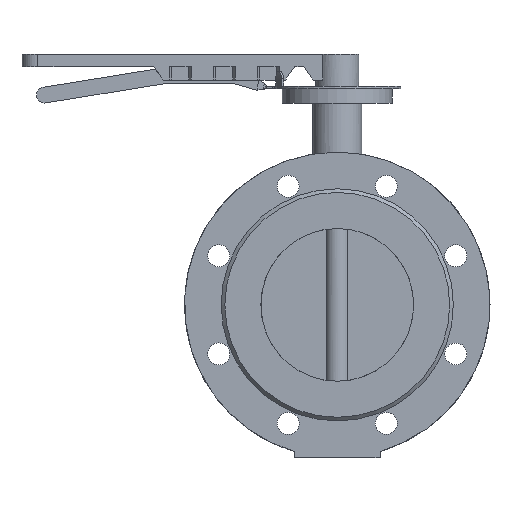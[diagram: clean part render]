
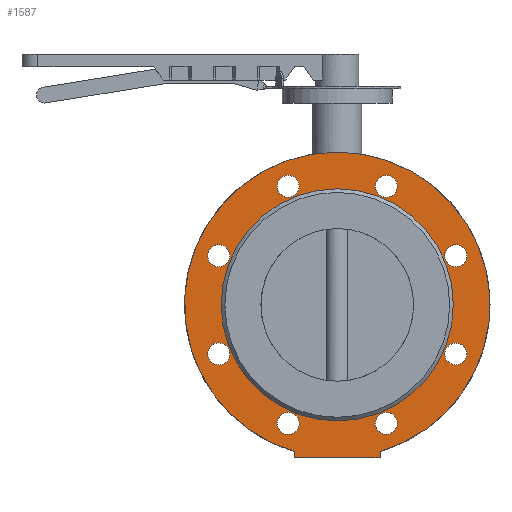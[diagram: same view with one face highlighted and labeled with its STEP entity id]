
A CAD part, front view. The second image highlights one B-rep face of the part: STEP entity #1587.
In plain terms, the highlighted planar face has unit normal (0, -1, 0).
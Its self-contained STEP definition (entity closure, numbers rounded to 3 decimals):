
#1587=ADVANCED_FACE('',(#3084,#3086,#3088,#3090,#3092,#3094,#3096,#3098,#3100,#3102),
#3104,.T.);
#3084=FACE_BOUND('',#3085,.T.);
#3085=EDGE_LOOP('',(#4193,#4194,#4195,#4196,#4197));
#3086=FACE_BOUND('',#3087,.T.);
#3087=EDGE_LOOP('',(#4198));
#3088=FACE_BOUND('',#3089,.T.);
#3089=EDGE_LOOP('',(#4199));
#3090=FACE_BOUND('',#3091,.T.);
#3091=EDGE_LOOP('',(#4200));
#3092=FACE_BOUND('',#3093,.T.);
#3093=EDGE_LOOP('',(#4201));
#3094=FACE_BOUND('',#3095,.T.);
#3095=EDGE_LOOP('',(#4202));
#3096=FACE_BOUND('',#3097,.T.);
#3097=EDGE_LOOP('',(#4203));
#3098=FACE_BOUND('',#3099,.T.);
#3099=EDGE_LOOP('',(#4204));
#3100=FACE_BOUND('',#3101,.T.);
#3101=EDGE_LOOP('',(#4205));
#3102=FACE_BOUND('',#3103,.T.);
#3103=EDGE_LOOP('',(#4206));
#3104=PLANE('',#3105);
#3105=AXIS2_PLACEMENT_3D('',#3106,#3107,#3108);
#3106=CARTESIAN_POINT('',(0.,-67.,0.));
#3107=DIRECTION('',(0.,-1.,0.));
#3108=DIRECTION('',(0.,0.,1.));
#4193=ORIENTED_EDGE('',*,*,#4712,.F.);
#4194=ORIENTED_EDGE('',*,*,#4765,.T.);
#4195=ORIENTED_EDGE('',*,*,#4766,.F.);
#4196=ORIENTED_EDGE('',*,*,#4758,.F.);
#4197=ORIENTED_EDGE('',*,*,#4713,.F.);
#4198=ORIENTED_EDGE('',*,*,#4730,.T.);
#4199=ORIENTED_EDGE('',*,*,#4731,.T.);
#4200=ORIENTED_EDGE('',*,*,#4732,.T.);
#4201=ORIENTED_EDGE('',*,*,#4733,.T.);
#4202=ORIENTED_EDGE('',*,*,#4734,.T.);
#4203=ORIENTED_EDGE('',*,*,#4735,.T.);
#4204=ORIENTED_EDGE('',*,*,#4736,.T.);
#4205=ORIENTED_EDGE('',*,*,#4767,.T.);
#4206=ORIENTED_EDGE('',*,*,#4737,.T.);
#4712=EDGE_CURVE('',#5507,#5509,#5510,.T.);
#4713=EDGE_CURVE('',#5509,#5511,#5512,.T.);
#4730=EDGE_CURVE('',#5535,#5535,#5536,.F.);
#4731=EDGE_CURVE('',#5537,#5537,#5538,.F.);
#4732=EDGE_CURVE('',#5539,#5539,#5540,.F.);
#4733=EDGE_CURVE('',#5541,#5541,#5542,.F.);
#4734=EDGE_CURVE('',#5543,#5543,#5544,.F.);
#4735=EDGE_CURVE('',#5545,#5545,#5546,.F.);
#4736=EDGE_CURVE('',#5547,#5547,#5548,.F.);
#4737=EDGE_CURVE('',#5549,#5549,#5550,.F.);
#4758=EDGE_CURVE('',#5511,#5588,#5589,.T.);
#4765=EDGE_CURVE('',#5507,#5597,#5599,.T.);
#4766=EDGE_CURVE('',#5588,#5597,#5600,.T.);
#4767=EDGE_CURVE('',#5601,#5601,#5602,.T.);
#5507=VERTEX_POINT('',#7806);
#5509=VERTEX_POINT('',#7810);
#5510=CIRCLE('',#7811,125.);
#5511=VERTEX_POINT('',#7815);
#5512=CIRCLE('',#7816,125.);
#5535=VERTEX_POINT('',#8066);
#5536=CIRCLE('',#8067,9.);
#5537=VERTEX_POINT('',#8071);
#5538=CIRCLE('',#8072,9.);
#5539=VERTEX_POINT('',#8076);
#5540=CIRCLE('',#8077,9.);
#5541=VERTEX_POINT('',#8081);
#5542=CIRCLE('',#8082,9.);
#5543=VERTEX_POINT('',#8086);
#5544=CIRCLE('',#8087,9.);
#5545=VERTEX_POINT('',#8091);
#5546=CIRCLE('',#8092,9.);
#5547=VERTEX_POINT('',#8096);
#5548=CIRCLE('',#8097,9.);
#5549=VERTEX_POINT('',#8101);
#5550=CIRCLE('',#8102,9.);
#5588=VERTEX_POINT('',#8197);
#5589=LINE('',#8198,#8199);
#5597=VERTEX_POINT('',#8218);
#5599=LINE('',#8222,#8223);
#5600=LINE('',#8225,#8226);
#5601=VERTEX_POINT('',#8228);
#5602=CIRCLE('',#8229,95.);
#7806=CARTESIAN_POINT('',(-35.,-67.,-120.));
#7810=CARTESIAN_POINT('',(0.,-67.,125.));
#7811=AXIS2_PLACEMENT_3D('',#7812,#7813,#7814);
#7812=CARTESIAN_POINT('',(0.,-67.,0.));
#7813=DIRECTION('',(0.,1.,0.));
#7814=DIRECTION('',(-0.28,0.,-0.96));
#7815=CARTESIAN_POINT('',(35.,-67.,-120.));
#7816=AXIS2_PLACEMENT_3D('',#7817,#7818,#7819);
#7817=CARTESIAN_POINT('',(0.,-67.,0.));
#7818=DIRECTION('',(0.,1.,0.));
#7819=DIRECTION('',(0.,0.,1.));
#8066=CARTESIAN_POINT('',(46.546,-67.,90.643));
#8067=AXIS2_PLACEMENT_3D('',#8068,#8069,#8070);
#8068=CARTESIAN_POINT('',(40.182,-67.,97.007));
#8069=DIRECTION('',(0.,-1.,0.));
#8070=DIRECTION('',(0.707,0.,-0.707));
#8071=CARTESIAN_POINT('',(97.007,-67.,31.182));
#8072=AXIS2_PLACEMENT_3D('',#8073,#8074,#8075);
#8073=CARTESIAN_POINT('',(97.007,-67.,40.182));
#8074=DIRECTION('',(0.,-1.,0.));
#8075=DIRECTION('',(0.,0.,-1.));
#8076=CARTESIAN_POINT('',(90.643,-67.,-46.546));
#8077=AXIS2_PLACEMENT_3D('',#8078,#8079,#8080);
#8078=CARTESIAN_POINT('',(97.007,-67.,-40.182));
#8079=DIRECTION('',(0.,-1.,0.));
#8080=DIRECTION('',(-0.707,0.,-0.707));
#8081=CARTESIAN_POINT('',(31.182,-67.,-97.007));
#8082=AXIS2_PLACEMENT_3D('',#8083,#8084,#8085);
#8083=CARTESIAN_POINT('',(40.182,-67.,-97.007));
#8084=DIRECTION('',(0.,-1.,0.));
#8085=DIRECTION('',(-1.,0.,0.));
#8086=CARTESIAN_POINT('',(-46.546,-67.,-90.643));
#8087=AXIS2_PLACEMENT_3D('',#8088,#8089,#8090);
#8088=CARTESIAN_POINT('',(-40.182,-67.,-97.007));
#8089=DIRECTION('',(0.,-1.,0.));
#8090=DIRECTION('',(-0.707,0.,0.707));
#8091=CARTESIAN_POINT('',(-97.007,-67.,-31.182));
#8092=AXIS2_PLACEMENT_3D('',#8093,#8094,#8095);
#8093=CARTESIAN_POINT('',(-97.007,-67.,-40.182));
#8094=DIRECTION('',(0.,-1.,0.));
#8095=DIRECTION('',(0.,0.,1.));
#8096=CARTESIAN_POINT('',(-90.643,-67.,46.546));
#8097=AXIS2_PLACEMENT_3D('',#8098,#8099,#8100);
#8098=CARTESIAN_POINT('',(-97.007,-67.,40.182));
#8099=DIRECTION('',(0.,-1.,0.));
#8100=DIRECTION('',(0.707,0.,0.707));
#8101=CARTESIAN_POINT('',(-31.182,-67.,97.007));
#8102=AXIS2_PLACEMENT_3D('',#8103,#8104,#8105);
#8103=CARTESIAN_POINT('',(-40.182,-67.,97.007));
#8104=DIRECTION('',(0.,-1.,0.));
#8105=DIRECTION('',(1.,0.,0.));
#8197=CARTESIAN_POINT('',(35.,-67.,-125.));
#8198=CARTESIAN_POINT('',(35.,-67.,-120.));
#8199=VECTOR('',#8200,1.);
#8200=DIRECTION('',(0.,0.,-1.));
#8218=CARTESIAN_POINT('',(-35.,-67.,-125.));
#8222=CARTESIAN_POINT('',(-35.,-67.,-120.));
#8223=VECTOR('',#8224,1.);
#8224=DIRECTION('',(0.,0.,-1.));
#8225=CARTESIAN_POINT('',(35.,-67.,-125.));
#8226=VECTOR('',#8227,1.);
#8227=DIRECTION('',(-1.,0.,0.));
#8228=CARTESIAN_POINT('',(0.,-67.,95.));
#8229=AXIS2_PLACEMENT_3D('',#8230,#8231,#8232);
#8230=CARTESIAN_POINT('',(0.,-67.,0.));
#8231=DIRECTION('',(0.,1.,0.));
#8232=DIRECTION('',(0.,0.,1.));
